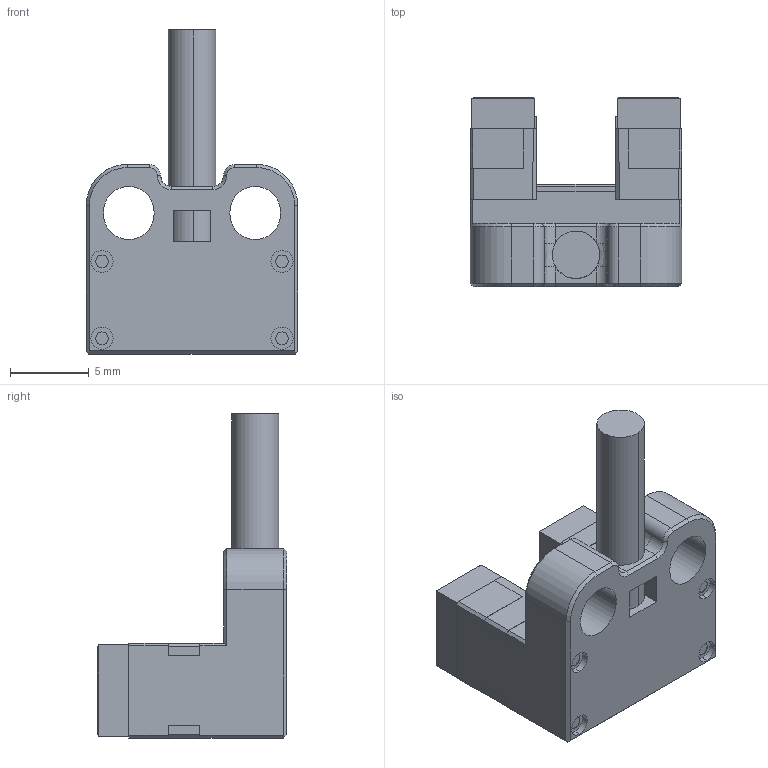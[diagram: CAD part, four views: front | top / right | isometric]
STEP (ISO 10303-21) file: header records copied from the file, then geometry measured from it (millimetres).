
FILE_DESCRIPTION (( 'STEP AP203' ), '1' );
FILE_NAME ('PU-L28.STEP', '2023-06-28T01:02:58', ( 'Windows User' ), ( 'P R C' ), 'SwSTEP 2.0', 'SolidWorks 2022', '' );
FILE_SCHEMA (( 'CONFIG_CONTROL_DESIGN' ));
Length unit declared in the file: millimetre
Products named in the file (4): L25包胶^L25; PU-L28; 导线; SD2008673-25包胶骨架-A1
Assembly tree (3 placements, depth 2):
  PU-L28
    SD2008673-25包胶骨架-A1
    L25包胶^L25
    导线
Bounding box: 13.4 x 12 x 20.51 mm (x, y, z)
Volume: 1273.7 mm3; surface area: 1733.4 mm2
Topology: 3 solids, 8 shells, 356 faces, 929 edges, 601 vertices
Faces by surface type: plane 283, cylinder 53, cone 18, bspline 2
Entity records: 11280 total; most frequent: CARTESIAN_POINT 2040, ORIENTED_EDGE 1858, DIRECTION 1766, EDGE_CURVE 929, LINE 792, VECTOR 792, VERTEX_POINT 601, AXIS2_PLACEMENT_3D 487
